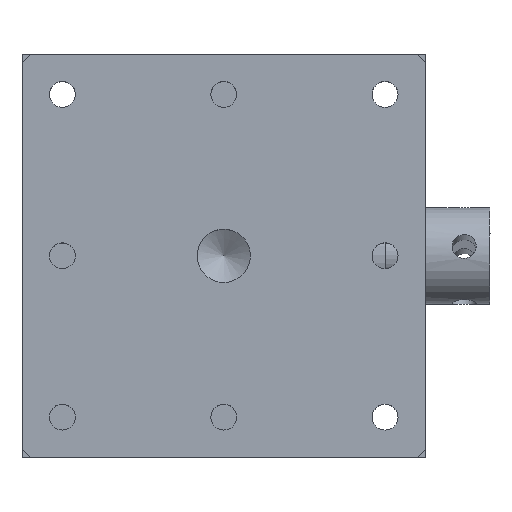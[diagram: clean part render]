
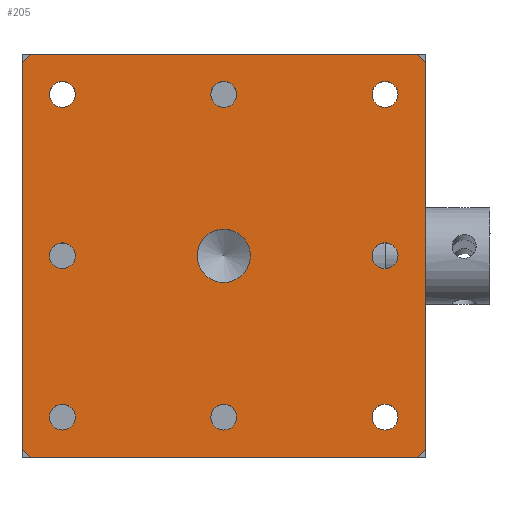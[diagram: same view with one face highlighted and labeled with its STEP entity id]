
A CAD part, top view. The second image highlights one B-rep face of the part: STEP entity #205.
In plain terms, the highlighted planar face has unit normal (0, 0, 1).
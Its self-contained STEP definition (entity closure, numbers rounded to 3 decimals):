
#205 = ADVANCED_FACE( '', ( #386, #387, #388, #389, #390, #391, #392, #393, #394, #395 ), #396, .T. );
#386 = FACE_BOUND( '', #674, .T. );
#387 = FACE_BOUND( '', #675, .T. );
#388 = FACE_BOUND( '', #676, .T. );
#389 = FACE_BOUND( '', #677, .T. );
#390 = FACE_BOUND( '', #678, .T. );
#391 = FACE_BOUND( '', #679, .T. );
#392 = FACE_BOUND( '', #680, .T. );
#393 = FACE_BOUND( '', #681, .T. );
#394 = FACE_BOUND( '', #682, .T. );
#395 = FACE_OUTER_BOUND( '', #683, .T. );
#396 = PLANE( '', #684 );
#674 = EDGE_LOOP( '', ( #1102 ) );
#675 = EDGE_LOOP( '', ( #1103 ) );
#676 = EDGE_LOOP( '', ( #1104 ) );
#677 = EDGE_LOOP( '', ( #1105 ) );
#678 = EDGE_LOOP( '', ( #1106 ) );
#679 = EDGE_LOOP( '', ( #1107 ) );
#680 = EDGE_LOOP( '', ( #1108 ) );
#681 = EDGE_LOOP( '', ( #1109 ) );
#682 = EDGE_LOOP( '', ( #1110 ) );
#683 = EDGE_LOOP( '', ( #1111, #1112, #1113, #1114, #1115, #1116, #1117, #1118 ) );
#684 = AXIS2_PLACEMENT_3D( '', #1119, #1120, #1121 );
#1102 = ORIENTED_EDGE( '', *, *, #1827, .T. );
#1103 = ORIENTED_EDGE( '', *, *, #1828, .T. );
#1104 = ORIENTED_EDGE( '', *, *, #1829, .T. );
#1105 = ORIENTED_EDGE( '', *, *, #1830, .T. );
#1106 = ORIENTED_EDGE( '', *, *, #1831, .T. );
#1107 = ORIENTED_EDGE( '', *, *, #1832, .T. );
#1108 = ORIENTED_EDGE( '', *, *, #1812, .T. );
#1109 = ORIENTED_EDGE( '', *, *, #1809, .T. );
#1110 = ORIENTED_EDGE( '', *, *, #1811, .T. );
#1111 = ORIENTED_EDGE( '', *, *, #1825, .F. );
#1112 = ORIENTED_EDGE( '', *, *, #1833, .T. );
#1113 = ORIENTED_EDGE( '', *, *, #1780, .F. );
#1114 = ORIENTED_EDGE( '', *, *, #1834, .T. );
#1115 = ORIENTED_EDGE( '', *, *, #1821, .F. );
#1116 = ORIENTED_EDGE( '', *, *, #1835, .T. );
#1117 = ORIENTED_EDGE( '', *, *, #1836, .F. );
#1118 = ORIENTED_EDGE( '', *, *, #1837, .T. );
#1119 = CARTESIAN_POINT( '', ( 0., 0., 15. ) );
#1120 = DIRECTION( '', ( 0., 0., 1. ) );
#1121 = DIRECTION( '', ( -1., 0., 0. ) );
#1780 = EDGE_CURVE( '', #2085, #2086, #2087, .T. );
#1809 = EDGE_CURVE( '', #2139, #2139, #2140, .T. );
#1811 = EDGE_CURVE( '', #2143, #2143, #2144, .T. );
#1812 = EDGE_CURVE( '', #2145, #2145, #2146, .T. );
#1821 = EDGE_CURVE( '', #2160, #2161, #2162, .T. );
#1825 = EDGE_CURVE( '', #2165, #2167, #2168, .T. );
#1827 = EDGE_CURVE( '', #2170, #2170, #2171, .T. );
#1828 = EDGE_CURVE( '', #2172, #2172, #2173, .T. );
#1829 = EDGE_CURVE( '', #2174, #2174, #2175, .T. );
#1830 = EDGE_CURVE( '', #2176, #2176, #2177, .T. );
#1831 = EDGE_CURVE( '', #2178, #2178, #2179, .T. );
#1832 = EDGE_CURVE( '', #2180, #2180, #2181, .T. );
#1833 = EDGE_CURVE( '', #2165, #2086, #2182, .F. );
#1834 = EDGE_CURVE( '', #2085, #2161, #2183, .F. );
#1835 = EDGE_CURVE( '', #2160, #2184, #2185, .F. );
#1836 = EDGE_CURVE( '', #2186, #2184, #2187, .T. );
#1837 = EDGE_CURVE( '', #2186, #2167, #2188, .F. );
#2085 = VERTEX_POINT( '', #2720 );
#2086 = VERTEX_POINT( '', #2721 );
#2087 = LINE( '', #2722, #2723 );
#2139 = VERTEX_POINT( '', #2794 );
#2140 = CIRCLE( '', #2795, 0.8 );
#2143 = VERTEX_POINT( '', #2798 );
#2144 = CIRCLE( '', #2799, 1.65 );
#2145 = VERTEX_POINT( '', #2800 );
#2146 = CIRCLE( '', #2801, 0.8 );
#2160 = VERTEX_POINT( '', #2822 );
#2161 = VERTEX_POINT( '', #2823 );
#2162 = LINE( '', #2824, #2825 );
#2165 = VERTEX_POINT( '', #2830 );
#2167 = VERTEX_POINT( '', #2833 );
#2168 = LINE( '', #2834, #2835 );
#2170 = VERTEX_POINT( '', #2838 );
#2171 = CIRCLE( '', #2839, 0.8 );
#2172 = VERTEX_POINT( '', #2840 );
#2173 = CIRCLE( '', #2841, 0.8 );
#2174 = VERTEX_POINT( '', #2842 );
#2175 = CIRCLE( '', #2843, 0.8 );
#2176 = VERTEX_POINT( '', #2844 );
#2177 = CIRCLE( '', #2845, 0.8 );
#2178 = VERTEX_POINT( '', #2846 );
#2179 = CIRCLE( '', #2847, 0.8 );
#2180 = VERTEX_POINT( '', #2848 );
#2181 = CIRCLE( '', #2849, 0.8 );
#2182 = LINE( '', #2850, #2851 );
#2183 = LINE( '', #2852, #2853 );
#2184 = VERTEX_POINT( '', #2854 );
#2185 = LINE( '', #2855, #2856 );
#2186 = VERTEX_POINT( '', #2857 );
#2187 = LINE( '', #2858, #2859 );
#2188 = LINE( '', #2860, #2861 );
#2720 = CARTESIAN_POINT( '', ( -12.5, -12., 15. ) );
#2721 = CARTESIAN_POINT( '', ( -12.5, 12., 15. ) );
#2722 = CARTESIAN_POINT( '', ( -12.5, 0., 15. ) );
#2723 = VECTOR( '', #3389, 1000. );
#2794 = CARTESIAN_POINT( '', ( 10.8, -10., 15. ) );
#2795 = AXIS2_PLACEMENT_3D( '', #3433, #3434, #3435 );
#2798 = CARTESIAN_POINT( '', ( 0., 1.65, 15. ) );
#2799 = AXIS2_PLACEMENT_3D( '', #3439, #3440, #3441 );
#2800 = CARTESIAN_POINT( '', ( 0.8, -10., 15. ) );
#2801 = AXIS2_PLACEMENT_3D( '', #3442, #3443, #3444 );
#2822 = CARTESIAN_POINT( '', ( 12., -12.5, 15. ) );
#2823 = CARTESIAN_POINT( '', ( -12., -12.5, 15. ) );
#2824 = CARTESIAN_POINT( '', ( 0., -12.5, 15. ) );
#2825 = VECTOR( '', #3455, 1000. );
#2830 = CARTESIAN_POINT( '', ( -12., 12.5, 15. ) );
#2833 = CARTESIAN_POINT( '', ( 12., 12.5, 15. ) );
#2834 = CARTESIAN_POINT( '', ( 0., 12.5, 15. ) );
#2835 = VECTOR( '', #3459, 1000. );
#2838 = CARTESIAN_POINT( '', ( 10.8, 0., 15. ) );
#2839 = AXIS2_PLACEMENT_3D( '', #3461, #3462, #3463 );
#2840 = CARTESIAN_POINT( '', ( 10.8, 10., 15. ) );
#2841 = AXIS2_PLACEMENT_3D( '', #3464, #3465, #3466 );
#2842 = CARTESIAN_POINT( '', ( 0.8, 10., 15. ) );
#2843 = AXIS2_PLACEMENT_3D( '', #3467, #3468, #3469 );
#2844 = CARTESIAN_POINT( '', ( -9.2, 10., 15. ) );
#2845 = AXIS2_PLACEMENT_3D( '', #3470, #3471, #3472 );
#2846 = CARTESIAN_POINT( '', ( -9.2, 0., 15. ) );
#2847 = AXIS2_PLACEMENT_3D( '', #3473, #3474, #3475 );
#2848 = CARTESIAN_POINT( '', ( -9.2, -10., 15. ) );
#2849 = AXIS2_PLACEMENT_3D( '', #3476, #3477, #3478 );
#2850 = CARTESIAN_POINT( '', ( -12.25, 12.25, 15. ) );
#2851 = VECTOR( '', #3479, 1000. );
#2852 = CARTESIAN_POINT( '', ( -12.25, -12.25, 15. ) );
#2853 = VECTOR( '', #3480, 1000. );
#2854 = CARTESIAN_POINT( '', ( 12.5, -12., 15. ) );
#2855 = CARTESIAN_POINT( '', ( 12.25, -12.25, 15. ) );
#2856 = VECTOR( '', #3481, 1000. );
#2857 = CARTESIAN_POINT( '', ( 12.5, 12., 15. ) );
#2858 = CARTESIAN_POINT( '', ( 12.5, 0., 15. ) );
#2859 = VECTOR( '', #3482, 1000. );
#2860 = CARTESIAN_POINT( '', ( 12.25, 12.25, 15. ) );
#2861 = VECTOR( '', #3483, 1000. );
#3389 = DIRECTION( '', ( 0., 1., 0. ) );
#3433 = CARTESIAN_POINT( '', ( 10., -10., 15. ) );
#3434 = DIRECTION( '', ( 0., 0., -1. ) );
#3435 = DIRECTION( '', ( 1., 0., 0. ) );
#3439 = CARTESIAN_POINT( '', ( 0., 0., 15. ) );
#3440 = DIRECTION( '', ( 0., 0., -1. ) );
#3441 = DIRECTION( '', ( 0., 1., 0. ) );
#3442 = CARTESIAN_POINT( '', ( 0., -10., 15. ) );
#3443 = DIRECTION( '', ( 0., 0., -1. ) );
#3444 = DIRECTION( '', ( 1., 0., 0. ) );
#3455 = DIRECTION( '', ( -1., 0., 0. ) );
#3459 = DIRECTION( '', ( 1., 0., 0. ) );
#3461 = CARTESIAN_POINT( '', ( 10., 0., 15. ) );
#3462 = DIRECTION( '', ( 0., 0., -1. ) );
#3463 = DIRECTION( '', ( 1., 0., 0. ) );
#3464 = CARTESIAN_POINT( '', ( 10., 10., 15. ) );
#3465 = DIRECTION( '', ( 0., 0., -1. ) );
#3466 = DIRECTION( '', ( 1., 0., 0. ) );
#3467 = CARTESIAN_POINT( '', ( 0., 10., 15. ) );
#3468 = DIRECTION( '', ( 0., 0., -1. ) );
#3469 = DIRECTION( '', ( 1., 0., 0. ) );
#3470 = CARTESIAN_POINT( '', ( -10., 10., 15. ) );
#3471 = DIRECTION( '', ( 0., 0., -1. ) );
#3472 = DIRECTION( '', ( 1., 0., 0. ) );
#3473 = CARTESIAN_POINT( '', ( -10., 0., 15. ) );
#3474 = DIRECTION( '', ( 0., 0., -1. ) );
#3475 = DIRECTION( '', ( 1., 0., 0. ) );
#3476 = CARTESIAN_POINT( '', ( -10., -10., 15. ) );
#3477 = DIRECTION( '', ( 0., 0., -1. ) );
#3478 = DIRECTION( '', ( 1., 0., 0. ) );
#3479 = DIRECTION( '', ( 0.707, 0.707, 0. ) );
#3480 = DIRECTION( '', ( -0.707, 0.707, 0. ) );
#3481 = DIRECTION( '', ( -0.707, -0.707, 0. ) );
#3482 = DIRECTION( '', ( 0., -1., 0. ) );
#3483 = DIRECTION( '', ( 0.707, -0.707, 0. ) );
